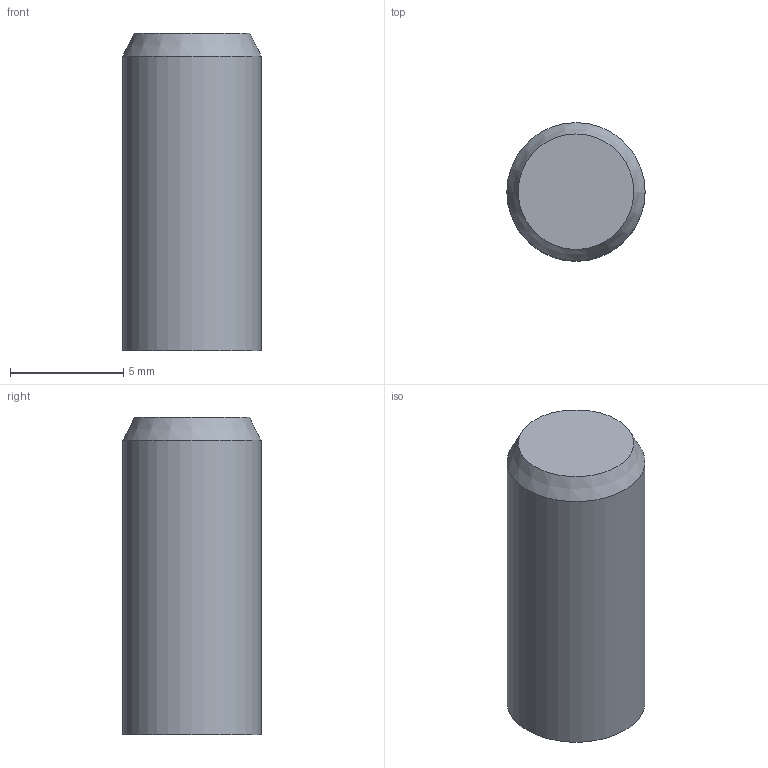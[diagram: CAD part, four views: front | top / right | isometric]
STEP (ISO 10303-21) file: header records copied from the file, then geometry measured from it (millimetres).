
FILE_DESCRIPTION(/* description */ ('','CAx-IF Rec.Pracs.---Representation and Presentation of Product Manufacturing Information (PMI)---4.0---2014-10-13'),/* implementation_level */ '2;1');
FILE_NAME(/* name */ 'Achse.step',/* time_stamp */ '2025-01-07T21:43:13+01:00',/* author */ (''),/* organization */ (''),/* preprocessor_version */ 'ST-DEVELOPER v20',/* originating_system */ 'Autodesk Translation Framework v13.20.0.188',/* authorisation */ '');
FILE_SCHEMA (('AP242_MANAGED_MODEL_BASED_3D_ENGINEERING_MIM_LF { 1 0 10303 442 1 1 4 }'));
Length unit declared in the file: millimetre
Products named in the file (1): 02_Achse
Bounding box: 6.1 x 6.1 x 14 mm (x, y, z)
Volume: 404.6 mm3; surface area: 318.5 mm2
Topology: 1 solids, 1 shells, 4 faces, 5 edges, 3 vertices
Faces by surface type: plane 2, cone 1, cylinder 1
Full cylindrical faces by diameter (mm): 6.1 x1
Entity records: 124 total; most frequent: DIRECTION 18, CARTESIAN_POINT 13, ORIENTED_EDGE 10, AXIS2_PLACEMENT_3D 8, EDGE_CURVE 5, FACE_OUTER_BOUND 4, EDGE_LOOP 4, ADVANCED_FACE 4
